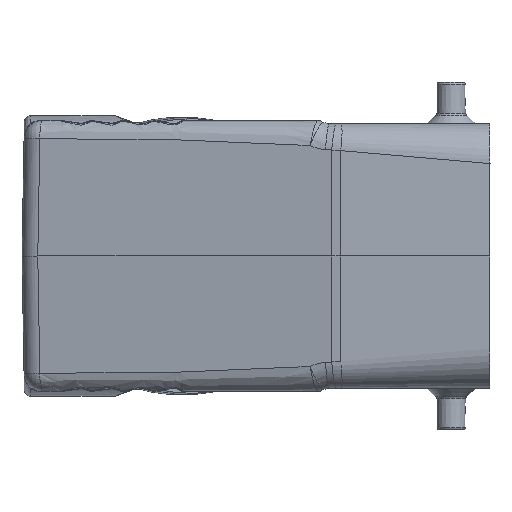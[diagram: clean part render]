
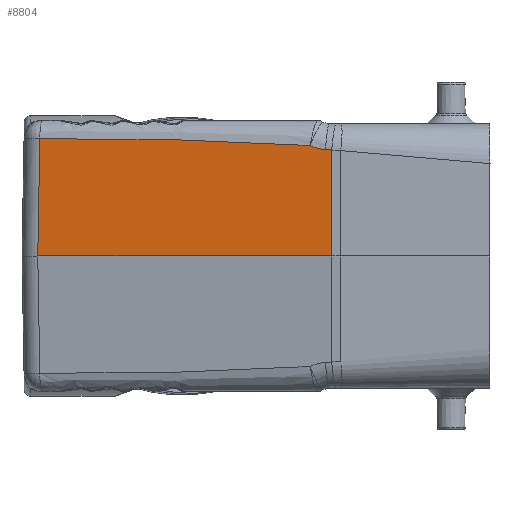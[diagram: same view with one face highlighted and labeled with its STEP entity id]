
A CAD part, left-side view. The second image highlights one B-rep face of the part: STEP entity #8804.
In plain terms, the highlighted planar face has unit normal (-0.989, 0.145, 0.018).
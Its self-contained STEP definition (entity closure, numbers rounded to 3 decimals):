
#36 = CARTESIAN_POINT ( 'NONE',  ( -46.75, 25., 0. ) ) ;
#41 = CARTESIAN_POINT ( 'NONE',  ( -40.962, 62.074, 19.037 ) ) ;
#951 = CARTESIAN_POINT ( 'NONE',  ( -46.064, 27.577, 17.376 ) ) ;
#1410 = B_SPLINE_CURVE_WITH_KNOTS ( 'NONE', 3,
 ( #4778, #19887, #12758, #12652, #14948, #14827, #20106, #5113, #27640, #30163, #17248, #12546, #32342, #22659, #17694, #7512, #22323, #17361, #2656, #10136, #25087, #27741, #2553, #32447, #2230, #41, #22442, #19780, #32562, #7398, #9917, #30273, #22762, #17583, #27525, #12435, #7281, #15159, #7716, #10245, #20215, #5227 ),
 .UNSPECIFIED., .F., .F.,
 ( 4, 1, 1, 1, 1, 1, 1, 2, 2, 1, 1, 1, 2, 2, 1, 1, 1, 1, 1, 1, 1, 2, 2, 1, 1, 1, 1, 1, 1, 2, 2, 4 ),
 ( 0., 0.25, 0.375, 0.438, 0.469, 0.484, 0.492, 0.496, 0.5, 0.563, 0.594, 0.609, 0.617, 0.625, 0.688, 0.719, 0.734, 0.742, 0.746, 0.748, 0.749, 0.75, 0.75, 0.813, 0.844, 0.859, 0.867, 0.871, 0.873, 0.874, 0.875, 1. ),
 .UNSPECIFIED. ) ;
#1428 = ORIENTED_EDGE ( 'NONE', *, *, #30173, .T. ) ;
#1813 = B_SPLINE_CURVE_WITH_KNOTS ( 'NONE', 3,
 ( #30702, #2998, #31027, #10793 ),
 .UNSPECIFIED., .F., .F.,
 ( 4, 4 ),
 ( 0., 1. ),
 .UNSPECIFIED. ) ;
#1937 = VERTEX_POINT ( 'NONE', #24522 ) ;
#2230 = CARTESIAN_POINT ( 'NONE',  ( -40.97, 62.021, 19.037 ) ) ;
#2549 = DIRECTION ( 'NONE',  ( -0.989, 0.145, 0.017 ) ) ;
#2553 = CARTESIAN_POINT ( 'NONE',  ( -41.016, 61.705, 19.035 ) ) ;
#2656 = CARTESIAN_POINT ( 'NONE',  ( -41.635, 57.5, 18.994 ) ) ;
#2754 = CARTESIAN_POINT ( 'NONE',  ( -46.644, 25.723, 0. ) ) ;
#2998 = CARTESIAN_POINT ( 'NONE',  ( -46.313, 25.906, 17.236 ) ) ;
#3550 = VERTEX_POINT ( 'NONE', #21492 ) ;
#4778 = CARTESIAN_POINT ( 'NONE',  ( -45.814, 29.221, 17.944 ) ) ;
#5050 = ORIENTED_EDGE ( 'NONE', *, *, #6261, .F. ) ;
#5113 = CARTESIAN_POINT ( 'NONE',  ( -42.631, 50.747, 18.86 ) ) ;
#5227 = CARTESIAN_POINT ( 'NONE',  ( -39.34, 73.104, 19.052 ) ) ;
#6001 = CARTESIAN_POINT ( 'NONE',  ( -46.343, 25.701, 17.218 ) ) ;
#6061 = VECTOR ( 'NONE', #9365, 1000. ) ;
#6261 = EDGE_CURVE ( 'NONE', #7084, #25453, #25315, .T. ) ;
#7084 = VERTEX_POINT ( 'NONE', #12568 ) ;
#7281 = CARTESIAN_POINT ( 'NONE',  ( -40.157, 67.547, 19.054 ) ) ;
#7398 = CARTESIAN_POINT ( 'NONE',  ( -40.846, 62.865, 19.041 ) ) ;
#7512 = CARTESIAN_POINT ( 'NONE',  ( -41.827, 56.199, 18.974 ) ) ;
#7716 = CARTESIAN_POINT ( 'NONE',  ( -40.149, 67.6, 19.054 ) ) ;
#8804 = ADVANCED_FACE ( 'NONE', ( #17659 ), #27634, .T. ) ;
#9251 = EDGE_CURVE ( 'NONE', #10333, #1937, #30617, .T. ) ;
#9365 = DIRECTION ( 'NONE',  ( -0.015, 0.017, -1. ) ) ;
#9787 = CARTESIAN_POINT ( 'NONE',  ( -46.543, 25.716, 5.739 ) ) ;
#9917 = CARTESIAN_POINT ( 'NONE',  ( -40.663, 64.104, 19.047 ) ) ;
#10136 = CARTESIAN_POINT ( 'NONE',  ( -41.439, 58.832, 19.011 ) ) ;
#10245 = CARTESIAN_POINT ( 'NONE',  ( -39.854, 69.604, 19.057 ) ) ;
#10333 = VERTEX_POINT ( 'NONE', #15810 ) ;
#10793 = CARTESIAN_POINT ( 'NONE',  ( -46.193, 26.711, 17.282 ) ) ;
#10935 = CARTESIAN_POINT ( 'NONE',  ( -46.193, 26.711, 17.282 ) ) ;
#11012 = ORIENTED_EDGE ( 'NONE', *, *, #24341, .T. ) ;
#12435 = CARTESIAN_POINT ( 'NONE',  ( -40.164, 67.496, 19.054 ) ) ;
#12546 = CARTESIAN_POINT ( 'NONE',  ( -42.431, 52.104, 18.893 ) ) ;
#12568 = CARTESIAN_POINT ( 'NONE',  ( -46.343, 25.701, 17.218 ) ) ;
#12652 = CARTESIAN_POINT ( 'NONE',  ( -43.523, 44.7, 18.684 ) ) ;
#12758 = CARTESIAN_POINT ( 'NONE',  ( -44.471, 38.286, 18.442 ) ) ;
#13013 = CARTESIAN_POINT ( 'NONE',  ( -45.936, 28.421, 17.599 ) ) ;
#13539 = CARTESIAN_POINT ( 'NONE',  ( -39.34, 73.104, 19.052 ) ) ;
#14748 = EDGE_CURVE ( 'NONE', #27343, #3550, #17414, .T. ) ;
#14810 = CARTESIAN_POINT ( 'NONE',  ( -46.443, 25.709, 11.478 ) ) ;
#14827 = CARTESIAN_POINT ( 'NONE',  ( -42.81, 49.535, 18.829 ) ) ;
#14948 = CARTESIAN_POINT ( 'NONE',  ( -43.048, 47.921, 18.784 ) ) ;
#15024 = ORIENTED_EDGE ( 'NONE', *, *, #19913, .F. ) ;
#15159 = CARTESIAN_POINT ( 'NONE',  ( -40.152, 67.581, 19.054 ) ) ;
#15172 = ORIENTED_EDGE ( 'NONE', *, *, #9251, .T. ) ;
#15810 = CARTESIAN_POINT ( 'NONE',  ( -46.193, 26.711, 17.282 ) ) ;
#16850 = DIRECTION ( 'NONE',  ( 0.145, 0.989, 0. ) ) ;
#16958 = CARTESIAN_POINT ( 'NONE',  ( -46.75, 25., 0. ) ) ;
#17248 = CARTESIAN_POINT ( 'NONE',  ( -42.58, 51.091, 18.869 ) ) ;
#17361 = CARTESIAN_POINT ( 'NONE',  ( -41.778, 56.531, 18.979 ) ) ;
#17414 = LINE ( 'NONE', #19448, #6061 ) ;
#17583 = CARTESIAN_POINT ( 'NONE',  ( -40.216, 67.143, 19.054 ) ) ;
#17659 = FACE_OUTER_BOUND ( 'NONE', #27034, .T. ) ;
#17694 = CARTESIAN_POINT ( 'NONE',  ( -41.876, 55.868, 18.968 ) ) ;
#18492 = CARTESIAN_POINT ( 'NONE',  ( -45.874, 28.828, 17.751 ) ) ;
#18570 = CARTESIAN_POINT ( 'NONE',  ( -46.644, 25.723, 0. ) ) ;
#19448 = CARTESIAN_POINT ( 'NONE',  ( -39.34, 73.104, 19.052 ) ) ;
#19780 = CARTESIAN_POINT ( 'NONE',  ( -40.957, 62.112, 19.037 ) ) ;
#19887 = CARTESIAN_POINT ( 'NONE',  ( -45.277, 32.834, 18.162 ) ) ;
#19913 = EDGE_CURVE ( 'NONE', #25453, #3550, #24395, .T. ) ;
#20106 = CARTESIAN_POINT ( 'NONE',  ( -42.691, 50.343, 18.85 ) ) ;
#20213 = DIRECTION ( 'NONE',  ( -0.145, -0.989, 0. ) ) ;
#20215 = CARTESIAN_POINT ( 'NONE',  ( -39.585, 71.433, 19.057 ) ) ;
#21059 = ORIENTED_EDGE ( 'NONE', *, *, #14748, .T. ) ;
#21492 = CARTESIAN_POINT ( 'NONE',  ( -39.627, 73.437, 0. ) ) ;
#21726 = AXIS2_PLACEMENT_3D ( 'NONE', #36, #2549, #20213 ) ;
#22323 = CARTESIAN_POINT ( 'NONE',  ( -41.795, 56.419, 18.977 ) ) ;
#22442 = CARTESIAN_POINT ( 'NONE',  ( -40.959, 62.097, 19.037 ) ) ;
#22659 = CARTESIAN_POINT ( 'NONE',  ( -41.991, 55.088, 18.955 ) ) ;
#22762 = CARTESIAN_POINT ( 'NONE',  ( -40.284, 66.68, 19.053 ) ) ;
#24341 = EDGE_CURVE ( 'NONE', #1937, #27343, #1410, .T. ) ;
#24395 = LINE ( 'NONE', #16958, #26009 ) ;
#24522 = CARTESIAN_POINT ( 'NONE',  ( -45.814, 29.221, 17.944 ) ) ;
#25087 = CARTESIAN_POINT ( 'NONE',  ( -41.2, 60.456, 19.026 ) ) ;
#25315 = B_SPLINE_CURVE_WITH_KNOTS ( 'NONE', 3,
 ( #6001, #14810, #9787, #2754 ),
 .UNSPECIFIED., .F., .F.,
 ( 4, 4 ),
 ( 0., 1. ),
 .UNSPECIFIED. ) ;
#25453 = VERTEX_POINT ( 'NONE', #18570 ) ;
#26009 = VECTOR ( 'NONE', #16850, 1000. ) ;
#27034 = EDGE_LOOP ( 'NONE', ( #1428, #15172, #11012, #21059, #15024, #5050 ) ) ;
#27343 = VERTEX_POINT ( 'NONE', #13539 ) ;
#27525 = CARTESIAN_POINT ( 'NONE',  ( -40.182, 67.378, 19.054 ) ) ;
#27634 = PLANE ( 'NONE',  #21726 ) ;
#27640 = CARTESIAN_POINT ( 'NONE',  ( -42.605, 50.92, 18.864 ) ) ;
#27741 = CARTESIAN_POINT ( 'NONE',  ( -41.078, 61.286, 19.032 ) ) ;
#30163 = CARTESIAN_POINT ( 'NONE',  ( -42.588, 51.036, 18.867 ) ) ;
#30173 = EDGE_CURVE ( 'NONE', #7084, #10333, #1813, .T. ) ;
#30273 = CARTESIAN_POINT ( 'NONE',  ( -40.416, 65.783, 19.051 ) ) ;
#30617 = B_SPLINE_CURVE_WITH_KNOTS ( 'NONE', 3,
 ( #10935, #31061, #951, #13013, #18492, #30620 ),
 .UNSPECIFIED., .F., .F.,
 ( 4, 2, 4 ),
 ( 0., 0.5, 1. ),
 .UNSPECIFIED. ) ;
#30620 = CARTESIAN_POINT ( 'NONE',  ( -45.814, 29.221, 17.944 ) ) ;
#30702 = CARTESIAN_POINT ( 'NONE',  ( -46.343, 25.701, 17.218 ) ) ;
#31027 = CARTESIAN_POINT ( 'NONE',  ( -46.263, 26.243, 17.257 ) ) ;
#31061 = CARTESIAN_POINT ( 'NONE',  ( -46.129, 27.147, 17.307 ) ) ;
#32342 = CARTESIAN_POINT ( 'NONE',  ( -42.224, 53.505, 18.925 ) ) ;
#32447 = CARTESIAN_POINT ( 'NONE',  ( -40.985, 61.915, 19.036 ) ) ;
#32562 = CARTESIAN_POINT ( 'NONE',  ( -40.955, 62.121, 19.037 ) ) ;
